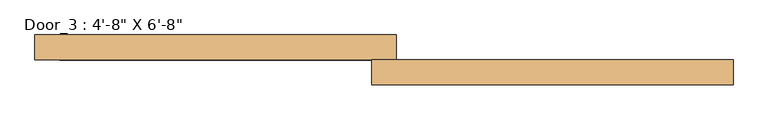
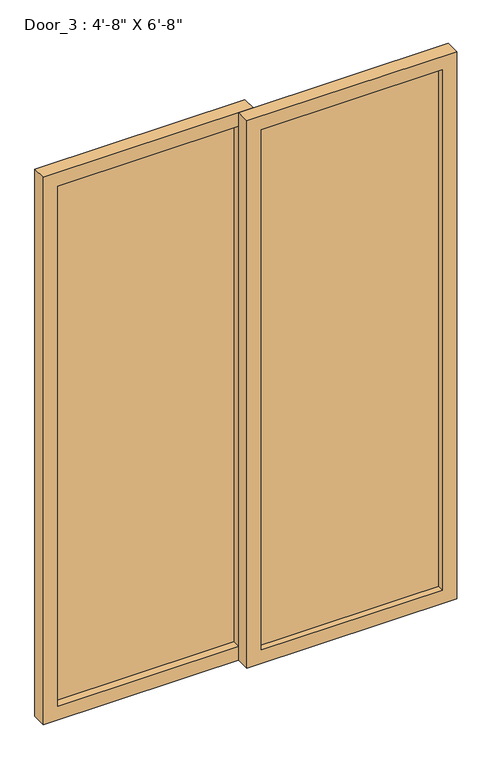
"""IFC4 building model written with IfcOpenShell, lengths in millimetres: door geometry."""

from ifc_helpers import new_model, si_unit, frame, origin, place, context, project, spatial, polyline, outline, extrude, source, transform, mapped, element, save


def door_63f27d76(model_context):
    return source(origin(), model_context, "Body", "SweptSolid", [
        extrude(outline(polyline([(2032.0, -25.4), (0.0, -25.4), (0.0, 711.2), (2032.0, 711.2), (2032.0, -25.4)]), holes=[polyline([(1981.2, 25.4), (1981.2, 660.4), (50.8, 660.4), (50.8, 25.4), (1981.2, 25.4)])]), frame((0.0, 107.95, 0.0), z_axis=(0.0, 1.0, 0.0), x_axis=(0.0, 0.0, 1.0)), (0.0, 0.0, 1.0), 50.8),
        extrude(outline(polyline([(2032.0, 25.4), (2032.0, -711.2), (0.0, -711.2), (0.0, 25.4), (2032.0, 25.4)]), holes=[polyline([(1981.2, -25.4), (50.8, -25.4), (50.8, -660.4), (1981.2, -660.4), (1981.2, -25.4)])]), frame((0.0, 158.75, 0.0), z_axis=(0.0, 1.0, 0.0), x_axis=(0.0, 0.0, 1.0)), (0.0, 0.0, 1.0), 50.8),
        extrude(outline(polyline([(25.4, 136.525), (660.4, 136.525), (660.4, 130.175), (25.4, 130.175), (25.4, 136.525)])), frame((0.0, 0.0, 50.8), z_axis=(0.0, 0.0, 1.0), x_axis=(1.0, 0.0, 0.0)), (0.0, 0.0, 1.0), 1930.4),
        extrude(outline(polyline([(-25.4, 187.325), (-660.4, 187.325), (-660.4, 200.025), (-25.4, 200.025), (-25.4, 187.325)])), frame((0.0, 0.0, 50.8), z_axis=(0.0, 0.0, 1.0), x_axis=(1.0, 0.0, 0.0)), (0.0, 0.0, 1.0), 1930.4),
    ])


if __name__ == "__main__":
    model = new_model("IFC4")
    model_context = context("Model", 3, world=origin())
    ifc_project = project(units=[si_unit("LENGTHUNIT", "METRE", prefix="MILLI")], contexts=[model_context])
    site = spatial("IfcSite", under=ifc_project)
    building = spatial("IfcBuilding", under=site)
    placement = place(None, origin())
    door_shape = door_63f27d76(model_context)
    element("IfcDoor", 1, ObjectType="Door_3 : 4'-8\" X 6'-8\"", at=placement, inside=building, context=model_context, shape_type="MappedRepresentation", body=[
        mapped(door_shape, transform((0.0, 0.0, 0.0), x_axis=(1.0, 0.0, 0.0), y_axis=(0.0, 1.0, 0.0), z_axis=(0.0, 0.0, 1.0))),
    ])
    save(model, "model.ifc")
